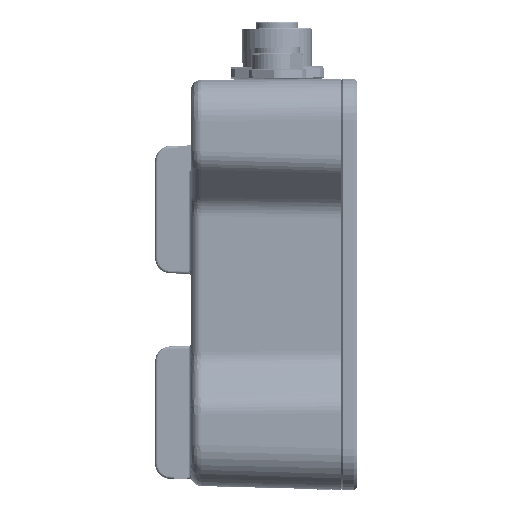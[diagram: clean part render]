
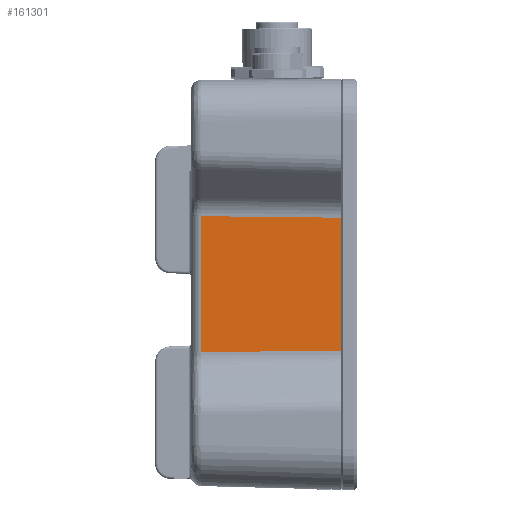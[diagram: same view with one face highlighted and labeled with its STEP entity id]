
A CAD part, left-side view. The second image highlights one B-rep face of the part: STEP entity #161301.
In plain terms, the highlighted planar face has unit normal (-1, 0.026, 0).
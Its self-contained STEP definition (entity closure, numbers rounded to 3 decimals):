
#444 = EDGE_CURVE ( 'NONE', #31330, #78614, #214502, .T. ) ;
#8585 = VECTOR ( 'NONE', #112490, 1000. ) ;
#8769 = CARTESIAN_POINT ( 'NONE',  ( -90., 3., 12.93 ) ) ;
#11021 = CARTESIAN_POINT ( 'NONE',  ( -90., 3., 15. ) ) ;
#30273 = DIRECTION ( 'NONE',  ( 0.026, 1., 0.011 ) ) ;
#31330 = VERTEX_POINT ( 'NONE', #290507 ) ;
#41903 = VECTOR ( 'NONE', #30273, 1000. ) ;
#55545 = EDGE_LOOP ( 'NONE', ( #329383, #356008, #193085, #141084 ) ) ;
#78614 = VERTEX_POINT ( 'NONE', #286368 ) ;
#79120 = CARTESIAN_POINT ( 'NONE',  ( -90., 3., 15. ) ) ;
#87361 = FACE_OUTER_BOUND ( 'NONE', #55545, .T. ) ;
#95756 = EDGE_CURVE ( 'NONE', #348293, #31330, #189518, .T. ) ;
#98016 = AXIS2_PLACEMENT_3D ( 'NONE', #11021, #286199, #230462 ) ;
#102927 = DIRECTION ( 'NONE',  ( -0.026, -1., 0.011 ) ) ;
#106716 = EDGE_CURVE ( 'NONE', #165380, #348293, #316460, .T. ) ;
#112490 = DIRECTION ( 'NONE',  ( 0., 0., 1. ) ) ;
#117829 = VECTOR ( 'NONE', #161564, 1000. ) ;
#141084 = ORIENTED_EDGE ( 'NONE', *, *, #342136, .T. ) ;
#141846 = CARTESIAN_POINT ( 'NONE',  ( -89.233, 32.272, 13.247 ) ) ;
#154825 = CARTESIAN_POINT ( 'NONE',  ( -89.285, 30.302, 13.226 ) ) ;
#161301 = ADVANCED_FACE ( 'NONE', ( #87361 ), #341914, .T. ) ;
#161564 = DIRECTION ( 'NONE',  ( 0., 0., -1. ) ) ;
#165380 = VERTEX_POINT ( 'NONE', #8769 ) ;
#189518 = LINE ( 'NONE', #269525, #117829 ) ;
#193085 = ORIENTED_EDGE ( 'NONE', *, *, #444, .T. ) ;
#214502 = LINE ( 'NONE', #327751, #346809 ) ;
#224050 = LINE ( 'NONE', #79120, #8585 ) ;
#230462 = DIRECTION ( 'NONE',  ( 0.026, 1., 0. ) ) ;
#269525 = CARTESIAN_POINT ( 'NONE',  ( -89.285, 30.302, -13.247 ) ) ;
#286199 = DIRECTION ( 'NONE',  ( -1., 0.026, 0. ) ) ;
#286368 = CARTESIAN_POINT ( 'NONE',  ( -90., 3., -12.93 ) ) ;
#290507 = CARTESIAN_POINT ( 'NONE',  ( -89.285, 30.302, -13.226 ) ) ;
#316460 = LINE ( 'NONE', #141846, #41903 ) ;
#327751 = CARTESIAN_POINT ( 'NONE',  ( -89.999, 3.022, -12.93 ) ) ;
#329383 = ORIENTED_EDGE ( 'NONE', *, *, #106716, .T. ) ;
#341914 = PLANE ( 'NONE',  #98016 ) ;
#342136 = EDGE_CURVE ( 'NONE', #78614, #165380, #224050, .T. ) ;
#346809 = VECTOR ( 'NONE', #102927, 1000. ) ;
#348293 = VERTEX_POINT ( 'NONE', #154825 ) ;
#356008 = ORIENTED_EDGE ( 'NONE', *, *, #95756, .T. ) ;
